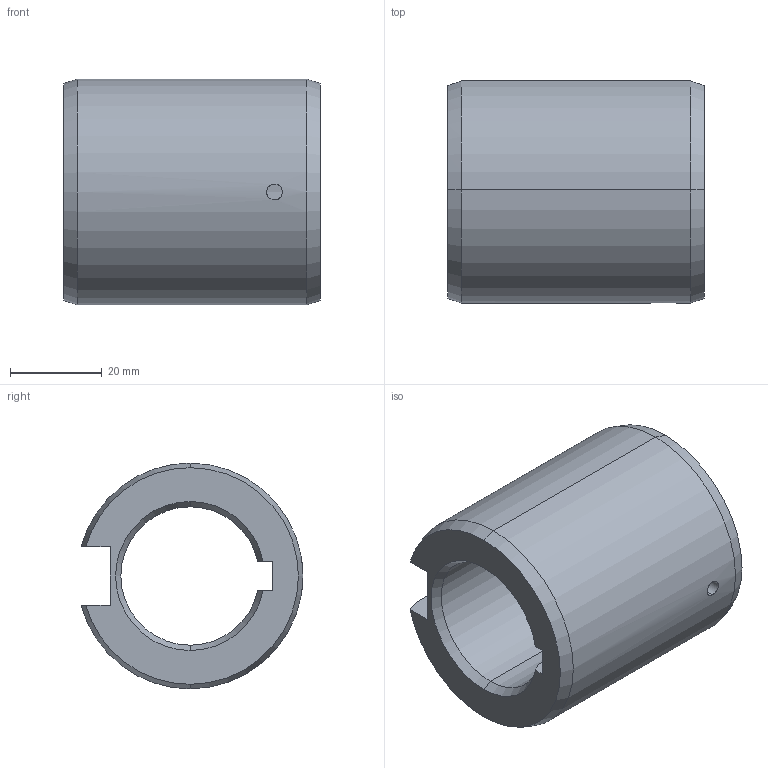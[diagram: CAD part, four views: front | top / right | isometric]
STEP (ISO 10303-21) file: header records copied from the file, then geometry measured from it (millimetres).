
FILE_DESCRIPTION (( 'STEP AP203' ), '1' );
FILE_NAME ('KBSH066P19.STEP', '2023-08-01T05:22:01', ( '' ), ( '' ), 'SwSTEP 2.0', 'SolidWorks 2017', '' );
FILE_SCHEMA (( 'CONFIG_CONTROL_DESIGN' ));
Length unit declared in the file: millimetre
Products named in the file (1): KBSH066P19
Bounding box: 56 x 48.38 x 49.21 mm (x, y, z)
Volume: 59808.3 mm3; surface area: 16844.5 mm2
Topology: 1 solids, 1 shells, 28 faces, 70 edges, 44 vertices
Faces by surface type: cone 12, cylinder 8, plane 8
Entity records: 979 total; most frequent: CARTESIAN_POINT 221, DIRECTION 144, ORIENTED_EDGE 140, EDGE_CURVE 70, AXIS2_PLACEMENT_3D 55, VERTEX_POINT 44, LINE 34, VECTOR 34
